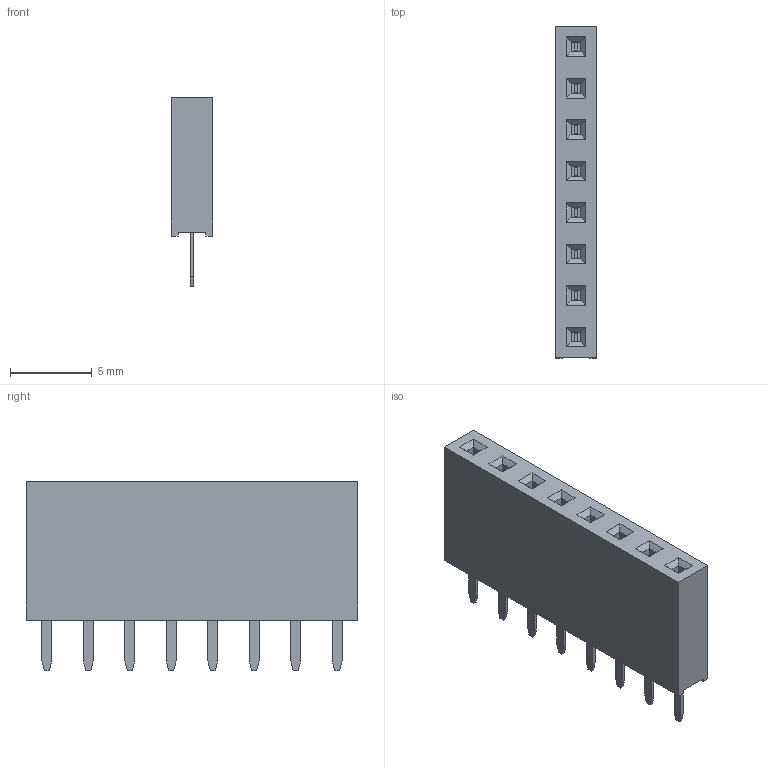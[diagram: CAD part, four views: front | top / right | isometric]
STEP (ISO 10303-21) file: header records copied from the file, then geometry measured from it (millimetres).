
FILE_DESCRIPTION(/* description */ ('STEP AP242 Edition 2','CAx-IF Rec.Pracs.---Representation and Presentation of Product Manufacturing Information (PMI)---4.0---2014-10-13','CAx-IF Rec.Pracs.---3D Tessellated Geometry---0.4---2014-09-14','2;1','CAx-IF Rec.Pracs.---User Defined Attributes---1.5---2016-08-15'),/* implementation_level */ '2;1');
FILE_NAME(/* name */ 'HIRO posing assembly - PinSocket_1x08_P2.54mm_Vertical',/* time_stamp */ '2026-11-04T05:15:22Z',/* author */ (''),/* organization */ (''),/* preprocessor_version */ 'ST-DEVELOPER v20',/* originating_system */ 'ONSHAPE BY PTC INC, 1.223',/* authorisation */ ' ');
FILE_SCHEMA (('AP242_MANAGED_MODEL_BASED_3D_ENGINEERING_MIM_LF { 1 0 10303 442 3 1 4 }'));
Length unit declared in the file: metre
Products named in the file (1): PinSocket_1x08_P2.54mm_Vertical
Bounding box: 2.54 x 20.32 x 11.6 mm (x, y, z)
Volume: 413.1 mm3; surface area: 695.4 mm2
Topology: 1 solids, 1 shells, 202 faces, 520 edges, 336 vertices
Faces by surface type: plane 202
Entity records: 6614 total; most frequent: CARTESIAN_POINT 1059, ORIENTED_EDGE 1040, DIRECTION 926, EDGE_CURVE 520, LINE 520, VECTOR 520, VERTEX_POINT 336, EDGE_LOOP 218
